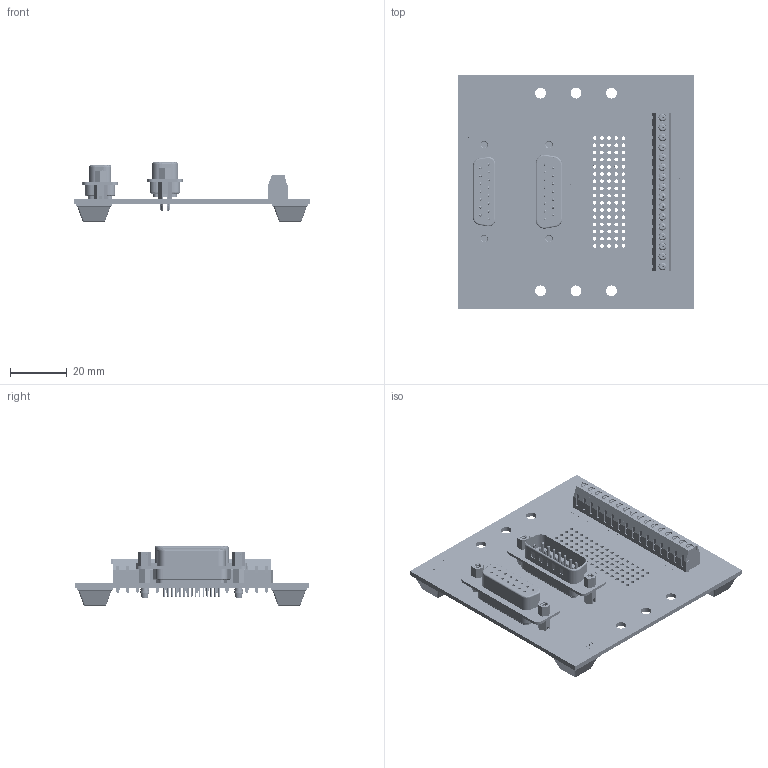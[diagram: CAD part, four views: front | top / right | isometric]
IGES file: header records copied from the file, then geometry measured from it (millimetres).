
Start section: SolidWorks IGES file using analytic representation for surfaces
Global section: file name: C:\Users\Jonny\Documents\Winford Engineering Jobs\BRK15 (2)\BRK15MF\brk15mf-s-ft_rev_a.igs; native system: SolidWorks 2017; preprocessor: SolidWorks 2017; author: Jonny; date: 180401.222356; units: inch
Bounding box: 83.31 x 82.55 x 20.94 mm (x, y, z)
Surface area: 28805.4 mm2 (no closed solid volume)
Topology: 0 solids, 0 shells, 4405 faces, 33064 edges, 32942 vertices
Faces by surface type: bspline 3053, revolution 1352
